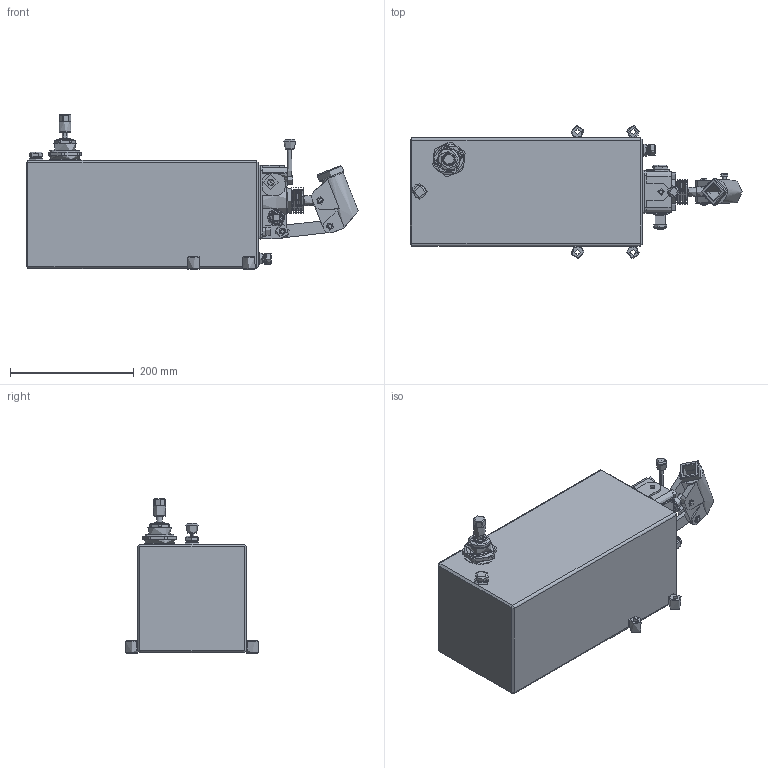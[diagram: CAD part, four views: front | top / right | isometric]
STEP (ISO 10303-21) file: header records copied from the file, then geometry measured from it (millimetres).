
FILE_DESCRIPTION(/* description */ ('Unknown'),/* implementation_level */ '2;1');
FILE_NAME(/* name */ 'ZES---DE--SR10',/* time_stamp */ '2024-11-29T15:40:47+01:00',/* author */ ('Unknown'),/* organization */ ('Unknown'),/* preprocessor_version */ 'ST-DEVELOPER v19.4',/* originating_system */ 'Solid Edge',/* authorisation */ 'Unknown');
FILE_SCHEMA (('AUTOMOTIVE_DESIGN {1 0 10303 214 3 1 1}'));
Products named in the file (1): ZES---DE--SR10
Bounding box: 536.79 x 214.78 x 249.75 mm (x, y, z)
Volume: 1749768.4 mm3; surface area: 815098.6 mm2
Topology: 10 solids, 10 shells, 3207 faces, 8776 edges, 5687 vertices
Faces by surface type: plane 2142, cylinder 616, cone 195, torus 148, bspline 92, sphere 14
Full cylindrical faces by diameter (mm): 1.998 x1, 3.596 x2, 3.996 x6, 4.995 x10, 5.095 x6, 5.794 x1, 5.994 x9, 6.194 x1, 6.494 x2, 7.792 x6, 7.942 x1, 7.992 x5, 8.092 x4, 8.368 x3, 8.557 x7, 8.991 x6, 9.64 x1, 9.99 x14, 10.04 x2, 10.19 x1, 10.489 x2, 10.869 x4, 10.889 x4, 10.989 x4, 11.434 x5, 11.489 x1, 11.788 x2, 11.988 x3, 12.088 x1, 12.987 x4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
Entity records: 115360 total; most frequent: CARTESIAN_POINT 24359, ORIENTED_EDGE 16178, DIRECTION 15643, EDGE_CURVE 8089, LINE 5773, VECTOR 5773, VERTEX_POINT 5451, AXIS2_PLACEMENT_3D 4935
